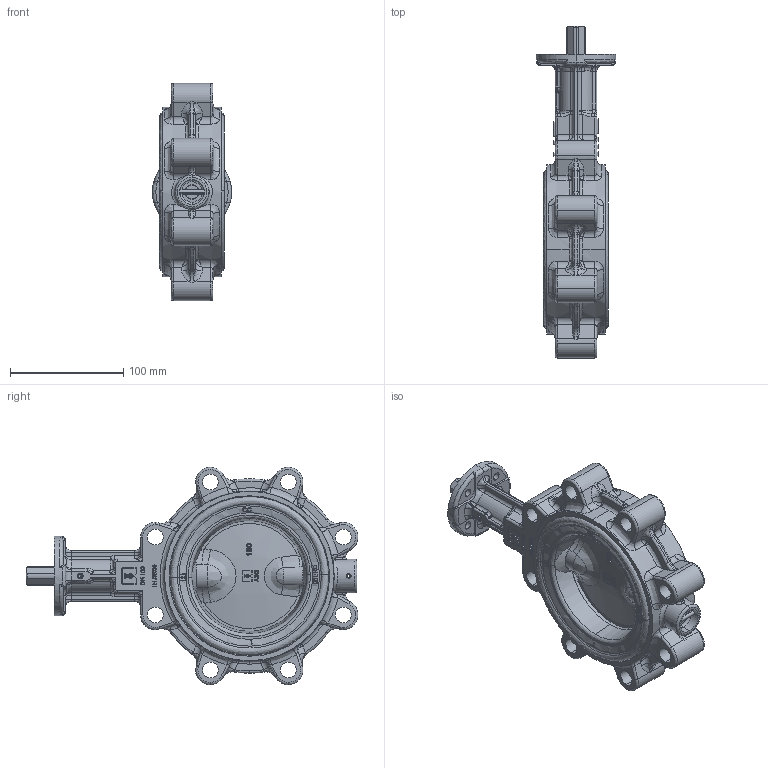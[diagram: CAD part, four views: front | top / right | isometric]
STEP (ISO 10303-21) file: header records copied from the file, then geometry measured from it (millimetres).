
FILE_DESCRIPTION (( 'STEP AP203' ), '1' );
FILE_NAME ('4832156_Axel-Larsson.step', '2023-10-04T10:14:35', ( '' ), ( '' ), 'SwSTEP 2.0', 'SolidWorks 2014', '' );
FILE_SCHEMA (( 'CONFIG_CONTROL_DESIGN' ));
Length unit declared in the file: millimetre
Products named in the file (1): 4832156_Axel-Larsson
Bounding box: 70 x 293.61 x 192.3 mm (x, y, z)
Volume: 888122 mm3; surface area: 164947.3 mm2
Topology: 5 solids, 13 shells, 1734 faces, 4435 edges, 2729 vertices
Faces by surface type: bspline 711, plane 583, cylinder 375, cone 65
Entity records: 93793 total; most frequent: CARTESIAN_POINT 57415, ORIENTED_EDGE 8698, DIRECTION 5779, EDGE_CURVE 4349, VERTEX_POINT 2729, AXIS2_PLACEMENT_3D 2011, EDGE_LOOP 1858, VECTOR 1757
